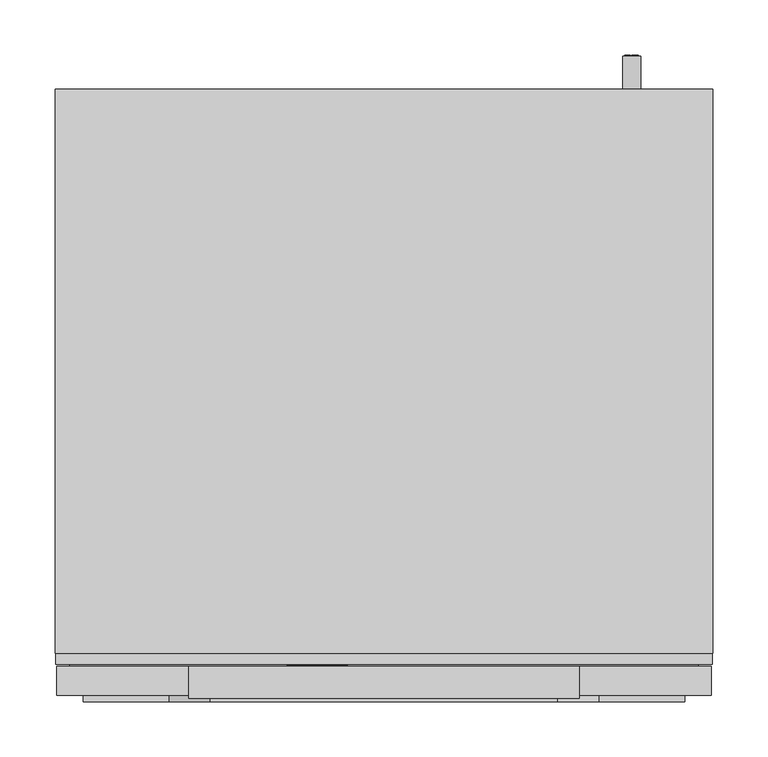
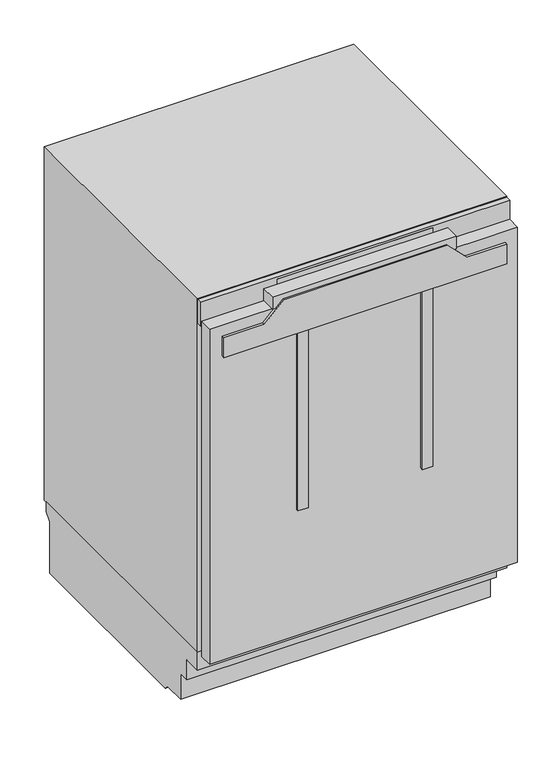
"""IFC4 building model written with IfcOpenShell, lengths in millimetres: proxy geometry, 12519150_EU1_KU7030D : 36703010_EU1_12519150_KU7030D."""

from ifc_helpers import new_model, si_unit, point, frame, frame_2d, origin, origin_with_axes, place, context, project, spatial, polyline, circle_curve, ellipse_curve, trimmed, segment, composite_curve, outline, extrude, faceted_brep, source, transform, mapped, element, save
from ifc_brep_helpers import plane_surface, cylinder_surface, revolved_surface, extruded_surface, advanced_brep


def specialty_equipment_f4c9d7c0(model_context):
    return source(origin(), model_context, "Body", "SolidModel", [
        extrude(outline(polyline([(835.9349293, -88.017), (835.9349293, -86.928), (829.9139293, -86.928), (829.9139293, -88.017), (828.4019293, -88.017), (828.4019293, -84.057), (829.9139293, -84.057), (829.9139293, -85.137), (833.7360541, -85.137), (828.4019293, -81.114), (833.8421516, -77.073), (829.9139293, -77.073), (829.9139293, -78.18), (828.4019293, -78.18), (828.4019293, -70.998), (829.9139293, -70.998), (829.9139293, -72.141), (835.9349293, -72.141), (835.9349293, -70.998), (837.4019293, -70.998), (837.4019293, -76.479), (834.0269293, -79.107), (837.4019293, -81.744), (837.4019293, -88.017), (835.9349293, -88.017)])), frame((0.0, 33.1, 0.0), z_axis=(0.0, 1.0, 0.0), x_axis=(0.0, 0.0, 1.0)), (0.0, 0.0, 1.0), 1.0),
        extrude(outline(polyline([(835.9349293, -51.495), (835.9349293, -50.415), (829.9139293, -50.415), (829.9139293, -51.495), (828.4019293, -51.495), (828.4019293, -44.196), (829.9139293, -44.196), (829.9139293, -45.303), (837.4019293, -45.303), (837.4019293, -51.495), (835.9349293, -51.495)])), frame((0.0, 33.1, 0.0), z_axis=(0.0, 1.0, 0.0), x_axis=(0.0, 0.0, 1.0)), (0.0, 0.0, 1.0), 1.0),
        extrude(outline(polyline([(836.8709293, -67.857), (835.4129293, -67.173), (836.8349293, -64.122), (838.2929293, -64.797), (836.8709293, -67.857)])), frame((0.0, 33.1, 0.0), z_axis=(0.0, 1.0, 0.0), x_axis=(0.0, 0.0, 1.0)), (0.0, 0.0, 1.0), 1.0),
        extrude(outline(polyline([(835.2149293, -70.08), (833.6039293, -70.08), (833.6039293, -69.009), (829.9139293, -69.009), (829.9139293, -70.08), (828.4019293, -70.08), (828.4019293, -62.979), (829.9139293, -62.979), (829.9139293, -64.023), (835.2149293, -64.023), (835.2149293, -70.08)])), frame((0.0, 33.1, 0.0), z_axis=(0.0, 1.0, 0.0), x_axis=(0.0, 0.0, 1.0)), (0.0, 0.0, 1.0), 1.0),
        advanced_brep(
        [(-58.02, 33.1, 830.5349293), (-58.02, 33.1, 831.4439293), (-51.999, 33.1, 831.4439293), (-62.475, 33.1, 831.4439293), (-60.0, 33.1, 828.4019293), (-52.152, 33.1, 830.5349293), (-54.87, 33.1, 830.5349293), (-57.012, 33.1, 829.5269293), (-58.02, 33.1, 832.5959293), (-58.02, 33.1, 833.5769293), (-56.481, 33.1, 833.5769293), (-56.481, 33.1, 832.5959293), (-58.02, 34.1, 830.5349293), (-57.012, 34.1, 829.5269293), (-54.87, 34.1, 830.5349293), (-52.152, 34.1, 830.5349293), (-60.0, 34.1, 828.4019293), (-62.475, 34.1, 831.4439293), (-51.999, 34.1, 831.4439293), (-58.02, 34.1, 831.4439293), (-58.02, 34.1, 832.5959293), (-56.481, 34.1, 832.5959293), (-56.481, 34.1, 833.5769293), (-58.02, 34.1, 833.5769293)],
        [
            (0, 1),
            (1, 2),
            (2, 3, ellipse_curve(frame((-57.237, 33.1, 831.4439293), z_axis=(0.0, -1.0, 0.0), x_axis=(-1.0, 0.0, 0.0)), 5.238, 4.329)),
            (3, 4, circle_curve(frame((-58.9919509, 33.1, 831.7499293), z_axis=(0.0, -1.0, 0.0), x_axis=(0.0, 0.0, -1.0)), 3.4964649)),
            (4, 5, circle_curve(frame((-57.3418572, 33.1, 834.1259293), z_axis=(0.0, -1.0, 0.0), x_axis=(0.0, 0.0, -1.0)), 6.3110933)),
            (5, 6),
            (6, 7, circle_curve(frame((-56.5720588, 33.1, 831.3719293), z_axis=(0.0, 1.0, 0.0), x_axis=(0.0, 0.0, -1.0)), 1.896727)),
            (7, 0, circle_curve(frame((-57.012, 33.1, 830.5349293), z_axis=(0.0, 1.0, 0.0), x_axis=(0.0, 0.0, -1.0)), 1.008)),
            (8, 9),
            (9, 10, circle_curve(frame((-57.2505, 33.1, 833.5769293), z_axis=(0.0, 1.0, 0.0), x_axis=(0.0, 0.0, -1.0)), 0.7695)),
            (10, 11),
            (11, 8),
            (12, 13, circle_curve(frame((-57.012, 34.1, 830.5349293), z_axis=(0.0, -1.0, 0.0), x_axis=(0.0, 0.0, -1.0)), 1.008)),
            (13, 14, circle_curve(frame((-56.5720588, 34.1, 831.3719293), z_axis=(0.0, -1.0, 0.0), x_axis=(0.0, 0.0, -1.0)), 1.896727)),
            (14, 15),
            (15, 16, circle_curve(frame((-57.3418572, 34.1, 834.1259293), z_axis=(0.0, 1.0, 0.0), x_axis=(0.0, 0.0, -1.0)), 6.3110933)),
            (16, 17, circle_curve(frame((-58.9919509, 34.1, 831.7499293), z_axis=(0.0, 1.0, 0.0), x_axis=(0.0, 0.0, -1.0)), 3.4964649)),
            (17, 18, ellipse_curve(frame((-57.237, 34.1, 831.4439293), z_axis=(0.0, 1.0, 0.0), x_axis=(-1.0, 0.0, 0.0)), 5.238, 4.329)),
            (18, 19),
            (19, 12),
            (20, 21),
            (21, 22),
            (22, 23, circle_curve(frame((-57.2505, 34.1, 833.5769293), z_axis=(0.0, -1.0, 0.0), x_axis=(0.0, 0.0, -1.0)), 0.7695)),
            (23, 20),
            (0, 12),
            (19, 1),
            (18, 2),
            (5, 15),
            (14, 6),
            (17, 3),
            (13, 7),
            (16, 4),
            (8, 20),
            (23, 9),
            (22, 10),
            (21, 11),
        ],
        [
            plane_surface(frame((-58.02, 33.1, 831.4439293), z_axis=(0.0, -1.0, 0.0), x_axis=(0.0, 0.0, 1.0))),
            plane_surface(frame((-58.02, 34.1, 831.4439293), z_axis=(0.0, 1.0, 0.0), x_axis=(0.0, 0.0, -1.0))),
            plane_surface(frame((-58.02, 33.1, 830.5349293), z_axis=(1.0, 0.0, 0.0), x_axis=(0.0, 1.0, 0.0))),
            plane_surface(frame((-58.02, 33.1, 831.4439293), z_axis=(0.0, 0.0, -1.0), x_axis=(0.0, 1.0, 0.0))),
            plane_surface(frame((-52.152, 33.1, 830.5349293), z_axis=(0.0, 0.0, 1.0), x_axis=(0.0, 1.0, 0.0))),
            extruded_surface(trimmed(ellipse_curve(frame((-57.237, 35.1, 831.4439293), z_axis=(0.0, -1.0, 0.0), x_axis=(-1.0, 0.0, 0.0)), 5.238, 4.329), [point((-51.999, 35.1, 831.4439293))], [point((-62.475, 35.1, 831.4439293))], True, "CARTESIAN"), (0.0, -1.0, 0.0), 1.0),
            revolved_surface(polyline([(-56.5720588, 34.1, 829.4752023), (-56.5720588, 33.1, 829.4752023)]), (-56.5720588, 34.1, 831.3719293), (0.0, 1.0, 0.0)),
            revolved_surface(polyline([(-57.012, 34.1, 829.5269293), (-57.012, 33.1, 829.5269293)]), (-57.012, 34.1, 830.5349293), (0.0, 1.0, 0.0)),
            cylinder_surface(frame((-58.9919509, 34.1, 831.7499293), z_axis=(0.0, -1.0, 0.0), x_axis=(0.0, 0.0, -1.0)), 3.4964649),
            cylinder_surface(frame((-57.3418572, 34.1, 834.1259293), z_axis=(0.0, -1.0, 0.0), x_axis=(0.0, 0.0, -1.0)), 6.3110933),
            plane_surface(frame((-58.02, 33.1, 832.5959293), z_axis=(1.0, 0.0, 0.0), x_axis=(0.0, 1.0, 0.0))),
            revolved_surface(polyline([(-57.2505, 34.1, 832.8074293), (-57.2505, 33.1, 832.8074293)]), (-57.2505, 34.1, 833.5769293), (0.0, 1.0, 0.0)),
            plane_surface(frame((-56.481, 33.1, 833.5769293), z_axis=(-1.0, 0.0, 0.0), x_axis=(0.0, 1.0, 0.0))),
            plane_surface(frame((-56.481, 33.1, 832.5959293), z_axis=(0.0, 0.0, 1.0), x_axis=(0.0, 1.0, 0.0))),
        ],
        [
            (0, [[1, 2, 3, 4, 5, 6, 7, 8], [9, 10, 11, 12]]),
            (1, [[13, 14, 15, 16, 17, 18, 19, 20], [21, 22, 23, 24]]),
            (2, [[-1, 25, -20, 26]]),
            (3, [[-2, -26, -19, 27]]),
            (4, [[-6, 28, -15, 29]]),
            (5, [[-3, -27, -18, 30]]),
            (6, [[-7, -29, -14, 31]]),
            (7, [[-8, -31, -13, -25]]),
            (8, [[-4, -30, -17, 32]]),
            (9, [[-5, -32, -16, -28]]),
            (10, [[-9, 33, -24, 34]]),
            (11, [[-10, -34, -23, 35]]),
            (12, [[-11, -35, -22, 36]]),
            (13, [[-12, -36, -21, -33]]),
        ],
    ),
        advanced_brep(
        [(-39.237, 33.1, 830.5349293), (-39.237, 33.1, 831.4439293), (-33.216, 33.1, 831.4439293), (-43.692, 33.1, 831.4439293), (-41.217, 33.1, 828.4019293), (-33.369, 33.1, 830.5349293), (-36.087, 33.1, 830.5349293), (-38.229, 33.1, 829.5269293), (-39.237, 33.1, 832.5959293), (-39.237, 33.1, 833.5769293), (-37.698, 33.1, 833.5769293), (-37.698, 33.1, 832.5959293), (-39.237, 34.1, 830.5349293), (-38.229, 34.1, 829.5269293), (-36.087, 34.1, 830.5349293), (-33.369, 34.1, 830.5349293), (-41.217, 34.1, 828.4019293), (-43.692, 34.1, 831.4439293), (-33.216, 34.1, 831.4439293), (-39.237, 34.1, 831.4439293), (-39.237, 34.1, 832.5959293), (-37.698, 34.1, 832.5959293), (-37.698, 34.1, 833.5769293), (-39.237, 34.1, 833.5769293)],
        [
            (0, 1),
            (1, 2),
            (2, 3, ellipse_curve(frame((-38.454, 33.1, 831.4439293), z_axis=(0.0, -1.0, 0.0), x_axis=(-1.0, 0.0, 0.0)), 5.238, 4.329)),
            (3, 4, circle_curve(frame((-40.2089509, 33.1, 831.7499293), z_axis=(0.0, -1.0, 0.0), x_axis=(0.0, 0.0, -1.0)), 3.4964649)),
            (4, 5, circle_curve(frame((-38.5588572, 33.1, 834.1259293), z_axis=(0.0, -1.0, 0.0), x_axis=(0.0, 0.0, -1.0)), 6.3110933)),
            (5, 6),
            (6, 7, circle_curve(frame((-37.7890588, 33.1, 831.3719293), z_axis=(0.0, 1.0, 0.0), x_axis=(0.0, 0.0, -1.0)), 1.896727)),
            (7, 0, circle_curve(frame((-38.229, 33.1, 830.5349293), z_axis=(0.0, 1.0, 0.0), x_axis=(0.0, 0.0, -1.0)), 1.008)),
            (8, 9),
            (9, 10, circle_curve(frame((-38.4675, 33.1, 833.5769293), z_axis=(0.0, 1.0, 0.0), x_axis=(0.0, 0.0, -1.0)), 0.7695)),
            (10, 11),
            (11, 8),
            (12, 13, circle_curve(frame((-38.229, 34.1, 830.5349293), z_axis=(0.0, -1.0, 0.0), x_axis=(0.0, 0.0, -1.0)), 1.008)),
            (13, 14, circle_curve(frame((-37.7890588, 34.1, 831.3719293), z_axis=(0.0, -1.0, 0.0), x_axis=(0.0, 0.0, -1.0)), 1.896727)),
            (14, 15),
            (15, 16, circle_curve(frame((-38.5588572, 34.1, 834.1259293), z_axis=(0.0, 1.0, 0.0), x_axis=(0.0, 0.0, -1.0)), 6.3110933)),
            (16, 17, circle_curve(frame((-40.2089509, 34.1, 831.7499293), z_axis=(0.0, 1.0, 0.0), x_axis=(0.0, 0.0, -1.0)), 3.4964649)),
            (17, 18, ellipse_curve(frame((-38.454, 34.1, 831.4439293), z_axis=(0.0, 1.0, 0.0), x_axis=(-1.0, 0.0, 0.0)), 5.238, 4.329)),
            (18, 19),
            (19, 12),
            (20, 21),
            (21, 22),
            (22, 23, circle_curve(frame((-38.4675, 34.1, 833.5769293), z_axis=(0.0, -1.0, 0.0), x_axis=(0.0, 0.0, -1.0)), 0.7695)),
            (23, 20),
            (0, 12),
            (19, 1),
            (18, 2),
            (5, 15),
            (14, 6),
            (17, 3),
            (13, 7),
            (16, 4),
            (8, 20),
            (23, 9),
            (22, 10),
            (21, 11),
        ],
        [
            plane_surface(frame((-39.237, 33.1, 831.4439293), z_axis=(0.0, -1.0, 0.0), x_axis=(0.0, 0.0, 1.0))),
            plane_surface(frame((-39.237, 34.1, 831.4439293), z_axis=(0.0, 1.0, 0.0), x_axis=(0.0, 0.0, -1.0))),
            plane_surface(frame((-39.237, 33.1, 830.5349293), z_axis=(1.0, 0.0, 0.0), x_axis=(0.0, 1.0, 0.0))),
            plane_surface(frame((-39.237, 33.1, 831.4439293), z_axis=(0.0, 0.0, -1.0), x_axis=(0.0, 1.0, 0.0))),
            plane_surface(frame((-33.369, 33.1, 830.5349293), z_axis=(0.0, 0.0, 1.0), x_axis=(0.0, 1.0, 0.0))),
            extruded_surface(trimmed(ellipse_curve(frame((-38.454, 35.1, 831.4439293), z_axis=(0.0, -1.0, 0.0), x_axis=(-1.0, 0.0, 0.0)), 5.238, 4.329), [point((-33.216, 35.1, 831.4439293))], [point((-43.692, 35.1, 831.4439293))], True, "CARTESIAN"), (0.0, -1.0, 0.0), 1.0),
            revolved_surface(polyline([(-37.7890588, 34.1, 829.4752023), (-37.7890588, 33.1, 829.4752023)]), (-37.7890588, 34.1, 831.3719293), (0.0, 1.0, 0.0)),
            revolved_surface(polyline([(-38.229, 34.1, 829.5269293), (-38.229, 33.1, 829.5269293)]), (-38.229, 34.1, 830.5349293), (0.0, 1.0, 0.0)),
            cylinder_surface(frame((-40.2089509, 34.1, 831.7499293), z_axis=(0.0, -1.0, 0.0), x_axis=(0.0, 0.0, -1.0)), 3.4964649),
            cylinder_surface(frame((-38.5588572, 34.1, 834.1259293), z_axis=(0.0, -1.0, 0.0), x_axis=(0.0, 0.0, -1.0)), 6.3110933),
            plane_surface(frame((-39.237, 33.1, 832.5959293), z_axis=(1.0, 0.0, 0.0), x_axis=(0.0, 1.0, 0.0))),
            revolved_surface(polyline([(-38.4675, 34.1, 832.8074293), (-38.4675, 33.1, 832.8074293)]), (-38.4675, 34.1, 833.5769293), (0.0, 1.0, 0.0)),
            plane_surface(frame((-37.698, 33.1, 833.5769293), z_axis=(-1.0, 0.0, 0.0), x_axis=(0.0, 1.0, 0.0))),
            plane_surface(frame((-37.698, 33.1, 832.5959293), z_axis=(0.0, 0.0, 1.0), x_axis=(0.0, 1.0, 0.0))),
        ],
        [
            (0, [[1, 2, 3, 4, 5, 6, 7, 8], [9, 10, 11, 12]]),
            (1, [[13, 14, 15, 16, 17, 18, 19, 20], [21, 22, 23, 24]]),
            (2, [[-1, 25, -20, 26]]),
            (3, [[-2, -26, -19, 27]]),
            (4, [[-6, 28, -15, 29]]),
            (5, [[-3, -27, -18, 30]]),
            (6, [[-7, -29, -14, 31]]),
            (7, [[-8, -31, -13, -25]]),
            (8, [[-4, -30, -17, 32]]),
            (9, [[-5, -32, -16, -28]]),
            (10, [[-9, 33, -24, 34]]),
            (11, [[-10, -34, -23, 35]]),
            (12, [[-11, -35, -22, 36]]),
            (13, [[-12, -36, -21, -33]]),
        ],
    ),
        extrude(outline(polyline([(150.0048218, 34.0937347), (-150.0048218, 34.0937347), (-150.0048218, 44.0), (150.0048218, 44.0), (150.0048218, 34.0937347)])), frame((0.0, 0.0, 813.2139282), z_axis=(0.0, 0.0, 1.0), x_axis=(1.0, 0.0, 0.0)), (0.0, 0.0, 1.0), 39.9850464),
        extrude(outline(polyline([(857.6989746, 298.0), (857.6989746, -298.0), (808.7051238, -298.0), (808.7051238, 298.0), (857.6989746, 298.0)]), holes=[polyline([(853.1989746, -150.0048218), (853.1989746, 150.0048218), (813.2139282, 150.0048218), (813.2139282, -150.0048218), (853.1989746, -150.0048218)])]), frame((0.0, 34.0937347, 0.0), z_axis=(0.0, 1.0, 0.0), x_axis=(0.0, 0.0, 1.0)), (0.0, 0.0, 1.0), 9.9062653),
        faceted_brep([(-298.5, 550.1, 137.8999939), (-298.5, 550.1, 117.6051112), (-298.5, 537.6, 105.1051112), (-298.5, 537.6, 0.0), (-298.5, 150.9682763, 0.0), (-298.5, 142.6506717, 8.3176046), (-298.5, 100.0, 8.3176046), (-298.5, 100.0, 60.7725754), (-298.5, 79.0216446, 60.7725754), (-298.5, 79.0216446, 101.8184894), (-298.5, 44.0, 101.8184894), (-298.5, 44.0, 137.8999939), (298.5, 550.1, 137.8999939), (298.5, 44.0, 137.8999939), (298.5, 44.0, 101.8184894), (298.5, 79.0216446, 101.8184894), (298.5, 79.0216446, 60.7725754), (298.5, 100.0, 60.7725754), (298.5, 100.0, 8.3176046), (298.5, 142.6506717, 8.3176046), (298.5, 150.9682763, 0.0), (298.5, 537.6, 0.0), (298.5, 537.6, 105.1051112), (298.5, 550.1, 117.6051112), (296.7000122, 463.8596389, 0.0), (256.5957336, 463.8596389, 0.0), (256.5957336, 399.1975098, 0.0), (296.7000122, 399.1975098, 0.0), (-296.7000122, 463.8596389, 0.0), (-296.7000122, 399.1975098, 0.0), (-256.5957336, 399.1975098, 0.0), (-256.5957336, 463.8596389, 0.0), (296.7000122, 463.8596389, 8.7371401), (296.7000122, 399.1975098, 8.7371401), (256.5957336, 399.1975098, 8.7371401), (256.5957336, 463.8596389, 8.7371401), (-296.7000122, 463.8596389, 8.7371401), (-256.5957336, 463.8596389, 8.7371401), (-256.5957336, 399.1975098, 8.7371401), (-296.7000122, 399.1975098, 8.7371401)], [[[0, 1, 2, 3, 4, 5, 6, 7, 8, 9, 10, 11]], [[12, 13, 14, 15, 16, 17, 18, 19, 20, 21, 22, 23]], [[0, 11, 13, 12]], [[11, 10, 14, 13]], [[10, 9, 15, 14]], [[9, 8, 16, 15]], [[8, 7, 17, 16]], [[7, 6, 18, 17]], [[6, 5, 19, 18]], [[5, 4, 20, 19]], [[4, 3, 21, 20], [24, 25, 26, 27], [28, 29, 30, 31]], [[3, 2, 22, 21]], [[2, 1, 23, 22]], [[1, 0, 12, 23]], [[32, 33, 34, 35]], [[36, 37, 38, 39]], [[32, 35, 25, 24]], [[35, 34, 26, 25]], [[34, 33, 27, 26]], [[33, 32, 24, 27]], [[36, 39, 29, 28]], [[39, 38, 30, 29]], [[38, 37, 31, 30]], [[37, 36, 28, 31]]]),
        faceted_brep([(298.5, 44.0, 859.0), (298.5, 44.0, 137.8999939), (298.5, 556.2, 137.8999939), (298.5, 556.2, 859.0), (-298.5, 44.0, 859.0), (-298.5, 556.2, 859.0), (-298.5, 556.2, 137.8999939), (-298.5, 44.0, 137.8999939), (263.0, 44.0, 759.0), (263.0, 44.0, 160.0), (-263.0, 44.0, 160.0), (-263.0, 44.0, 759.0), (263.0, 510.8638012, 160.0), (263.0, 510.8638012, 759.0), (-263.0, 510.8638012, 759.0), (-263.0, 510.8638012, 160.0)], [[[0, 1, 2, 3]], [[4, 5, 6, 7]], [[1, 0, 4, 7], [8, 9, 10, 11]], [[2, 1, 7, 6]], [[3, 2, 6, 5]], [[0, 3, 5, 4]], [[12, 13, 14, 15]], [[13, 12, 9, 8]], [[14, 13, 8, 11]], [[15, 14, 11, 10]], [[12, 15, 10, 9]]]),
        extrude(outline(polyline([(263.0, 510.8638012), (263.0, 339.3), (-263.0, 339.3), (-263.0, 510.8638012), (263.0, 510.8638012)])), frame((0.0, 0.0, 160.0), z_axis=(0.0, 0.0, 1.0), x_axis=(1.0, 0.0, 0.0)), (0.0, 0.0, 1.0), 61.8999939),
        extrude(outline(composite_curve([segment(trimmed(circle_curve(frame_2d((-270.8532135, 135.87603)), 15.7049948), [point((-286.5582083, 135.87603))], [point((-255.1482187, 135.87603))], False, "CARTESIAN"), True, "CONTINUOUS"), segment(trimmed(circle_curve(frame_2d((-270.8532135, 135.87603)), 15.7049948), [point((-255.1482187, 135.87603))], [point((-286.5582083, 135.87603))], False, "CARTESIAN"), True, "CONTINUOUS")], self_intersect=False)), origin_with_axes(), (0.0, 0.0, 1.0), 8.3176046),
        extrude(outline(composite_curve([segment(trimmed(circle_curve(frame_2d((270.8532135, 135.87603)), 15.7049948), [point((286.5582083, 135.87603))], [point((255.1482187, 135.87603))], False, "CARTESIAN"), True, "CONTINUOUS"), segment(trimmed(circle_curve(frame_2d((270.8532135, 135.87603)), 15.7049948), [point((255.1482187, 135.87603))], [point((286.5582083, 135.87603))], False, "CARTESIAN"), True, "CONTINUOUS")], self_intersect=False)), origin_with_axes(), (0.0, 0.0, 1.0), 8.3176046),
        extrude(outline(composite_curve([segment(trimmed(circle_curve(frame_2d((-275.822369, 437.7385329)), 16.0), [point((-291.822369, 437.7385329))], [point((-259.822369, 437.7385329))], False, "CARTESIAN"), True, "CONTINUOUS"), segment(trimmed(circle_curve(frame_2d((-275.822369, 437.7385329)), 16.0), [point((-259.822369, 437.7385329))], [point((-291.822369, 437.7385329))], False, "CARTESIAN"), True, "CONTINUOUS")], self_intersect=False)), origin_with_axes(), (0.0, 0.0, 1.0), 8.3176046),
        extrude(outline(composite_curve([segment(trimmed(circle_curve(frame_2d((275.822369, 437.7385329)), 16.0), [point((259.822369, 437.7385329))], [point((291.822369, 437.7385329))], False, "CARTESIAN"), True, "CONTINUOUS"), segment(trimmed(circle_curve(frame_2d((275.822369, 437.7385329)), 16.0), [point((291.822369, 437.7385329))], [point((259.822369, 437.7385329))], False, "CARTESIAN"), True, "CONTINUOUS")], self_intersect=False)), origin_with_axes(), (0.0, 0.0, 1.0), 8.3176046),
        extrude(outline(composite_curve([segment(trimmed(circle_curve(frame_2d((144.2460785, 224.8152695)), 8.0), [point((144.2460785, 216.8152695))], [point((144.2460785, 232.8152695))], False, "CARTESIAN"), True, "CONTINUOUS"), segment(trimmed(circle_curve(frame_2d((144.2460785, 224.8152695)), 8.0), [point((144.2460785, 232.8152695))], [point((144.2460785, 216.8152695))], False, "CARTESIAN"), True, "CONTINUOUS")], self_intersect=False)), frame((0.0, 556.2, 0.0), z_axis=(0.0, 1.0, 0.0), x_axis=(0.0, 0.0, 1.0)), (0.0, 0.0, 1.0), 30.0),
        extrude(outline(polyline([(140.2460785, 230.7170777), (148.2825833, 230.7170777), (148.2825833, 224.9408399), (147.2780202, 224.9408399), (147.2780202, 229.7125146), (144.8921828, 229.7125146), (144.8921828, 225.1919806), (143.8876197, 225.1919806), (143.8876197, 229.7125146), (141.2506416, 229.7125146), (141.2506416, 224.8152695), (140.2460785, 224.8152695), (140.2460785, 230.7170777)])), frame((0.0, 586.2, 0.0), z_axis=(0.0, 1.0, 0.0), x_axis=(0.0, 0.0, 1.0)), (0.0, 0.0, 1.0), 1.0),
        extrude(outline(polyline([(140.2460785, 223.3084248), (148.2825833, 223.3084248), (148.2825833, 222.3038617), (141.2506416, 222.3038617), (141.2506416, 218.2856093), (140.2460785, 218.2856093), (140.2460785, 223.3084248)])), frame((0.0, 586.2, 0.0), z_axis=(0.0, 1.0, 0.0), x_axis=(0.0, 0.0, 1.0)), (0.0, 0.0, 1.0), 1.0),
        extrude(outline(polyline([(297.0, 6.0), (-297.0, 6.0), (-297.0, 32.0), (297.0, 32.0), (297.0, 6.0)])), frame((0.0, 0.0, 136.0), z_axis=(0.0, 0.0, 1.0), x_axis=(1.0, 0.0, 0.0)), (0.0, 0.0, 1.0), 684.0),
        extrude(outline(polyline([(285.0, 44.0), (285.0, 32.0), (-285.0, 32.0), (-285.0, 44.0), (285.0, 44.0)])), frame((0.0, 0.0, 148.5030441), z_axis=(0.0, 0.0, 1.0), x_axis=(1.0, 0.0, 0.0)), (0.0, 0.0, 1.0), 655.9969559),
        extrude(outline(polyline([(844.6210938, 177.3252429), (844.6210938, -177.3251393), (820.0, -177.3252429), (820.0, 177.3252429), (844.6210938, 177.3252429)])), frame((0.0, 3.0, 0.0), z_axis=(0.0, 1.0, 0.0), x_axis=(0.0, 0.0, 1.0)), (0.0, 0.0, 1.0), 29.0),
        extrude(outline(polyline([(797.315066, -195.1876874), (797.315066, -272.9755319), (756.8499888, -272.9755319), (756.8499888, 272.9755319), (797.315066, 272.9755319), (797.315066, 195.1876874), (834.938205, 157.5645484), (834.938205, -157.5645484), (797.315066, -195.1876874)])), frame((0.0, 0.0, 0.0), z_axis=(0.0, 1.0, 0.0), x_axis=(0.0, 0.0, 1.0)), (0.0, 0.0, 1.0), 6.0),
        extrude(outline(polyline([(-110.0, 0.0), (-130.0, 0.0), (-130.0, 6.0), (-110.0, 6.0), (-110.0, 0.0)])), frame((0.0, 0.0, 394.1054382), z_axis=(0.0, 0.0, 1.0), x_axis=(1.0, 0.0, 0.0)), (0.0, 0.0, 1.0), 362.7445505),
        extrude(outline(polyline([(130.0, 0.0), (110.0, 0.0), (110.0, 6.0), (130.0, 6.0), (130.0, 0.0)])), frame((0.0, 0.0, 394.1054382), z_axis=(0.0, 0.0, 1.0), x_axis=(1.0, 0.0, 0.0)), (0.0, 0.0, 1.0), 362.7445505),
    ])


if __name__ == "__main__":
    model = new_model("IFC4")
    model_context = context("Model", 3, world=origin())
    ifc_project = project(units=[si_unit("LENGTHUNIT", "METRE", prefix="MILLI")], contexts=[model_context])
    site = spatial("IfcSite", under=ifc_project)
    building = spatial("IfcBuilding", under=site)
    placement = place(None, origin())
    specialty_equipment_shape = specialty_equipment_f4c9d7c0(model_context)
    element("IfcBuildingElementProxy", 1, Name="12519150_EU1_KU7030D : 36703010_EU1_12519150_KU7030D", ObjectType="12519150_EU1_KU7030D : 36703010_EU1_12519150_KU7030D", at=placement, inside=building, context=model_context, shape_type="MappedRepresentation", body=[
        mapped(specialty_equipment_shape, transform((0.0, 0.0, 0.0), x_axis=(1.0, 0.0, 0.0), y_axis=(0.0, 1.0, 0.0), z_axis=(0.0, 0.0, 1.0))),
    ])
    save(model, "model.ifc")
